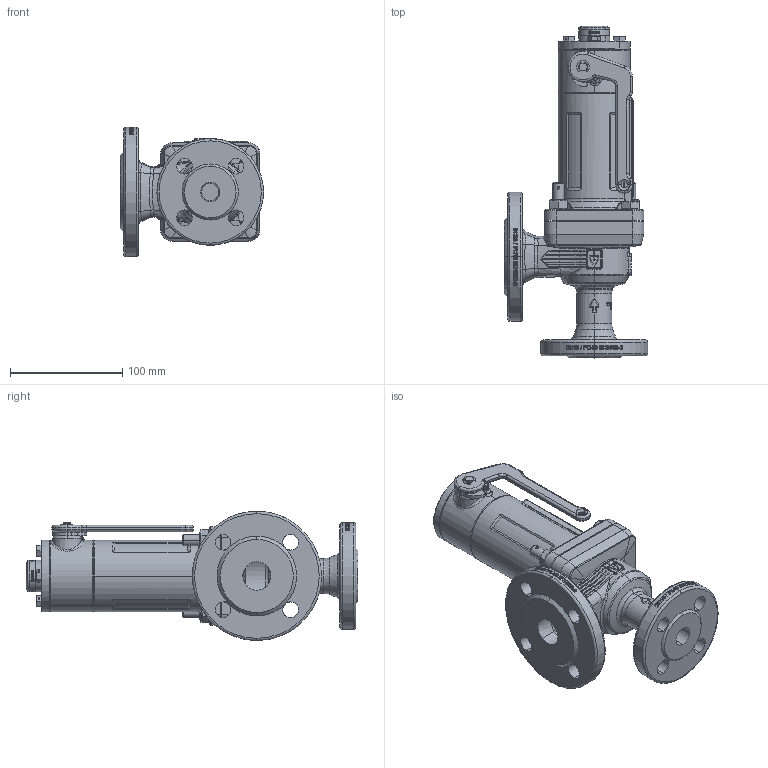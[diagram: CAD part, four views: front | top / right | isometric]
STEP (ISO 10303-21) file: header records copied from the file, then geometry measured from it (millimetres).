
FILE_DESCRIPTION (( 'STEP AP214' ), '1' );
FILE_NAME ('355sGL_15_FLFL_1525.STEP', '2020-01-15T07:32:34', ( '' ), ( '' ), 'SwSTEP 2.0', 'SolidWorks 2018', '' );
FILE_SCHEMA (( 'AUTOMOTIVE_DESIGN' ));
Length unit declared in the file: millimetre
Products named in the file (1): 355sGL_15_FLFL_1525
Bounding box: 127.5 x 295.45 x 115 mm (x, y, z)
Volume: 814388.9 mm3; surface area: 218347.2 mm2
Topology: 21 solids, 21 shells, 2197 faces, 5904 edges, 3936 vertices
Faces by surface type: bspline 638, cylinder 613, plane 560, cone 228, torus 128, sphere 30
Entity records: 166682 total; most frequent: CARTESIAN_POINT 91517, ORIENTED_EDGE 11714, DIRECTION 8880, EDGE_CURVE 5857, VERTEX_POINT 3934, AXIS2_PLACEMENT_3D 3576, EDGE_LOOP 2507, UNCERTAINTY_MEASURE_WITH_UNIT 2220
